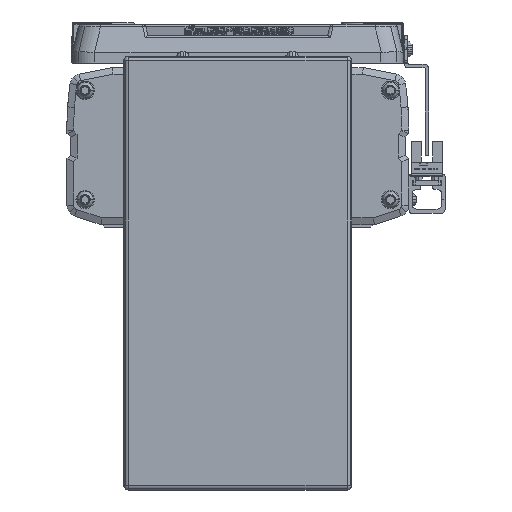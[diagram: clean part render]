
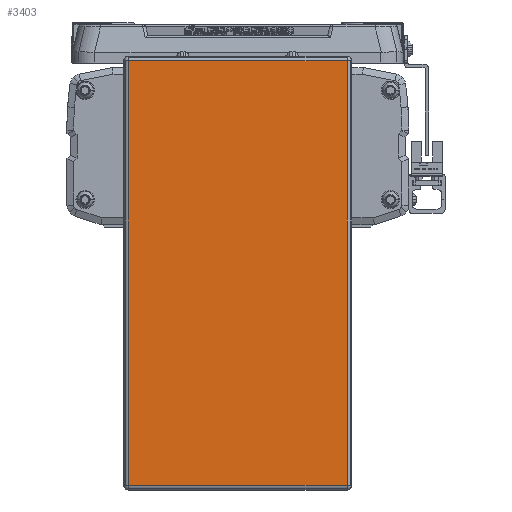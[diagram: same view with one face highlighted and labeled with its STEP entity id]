
A CAD part, left-side view. The second image highlights one B-rep face of the part: STEP entity #3403.
In plain terms, the highlighted planar face has unit normal (-1, 0, 0).
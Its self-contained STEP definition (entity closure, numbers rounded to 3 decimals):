
#3403=ADVANCED_FACE('',(#9202),#9203,.T.);
#9202=FACE_OUTER_BOUND('',#18162,.T.);
#9203=PLANE('',#18163);
#18162=EDGE_LOOP('',(#28358,#28359,#28360,#28361));
#18163=AXIS2_PLACEMENT_3D('',#28362,#28363,#28364);
#28358=ORIENTED_EDGE('',*,*,#52970,.F.);
#28359=ORIENTED_EDGE('',*,*,#52971,.F.);
#28360=ORIENTED_EDGE('',*,*,#52972,.F.);
#28361=ORIENTED_EDGE('',*,*,#52973,.F.);
#28362=CARTESIAN_POINT('',(-45.,0.,-64.2));
#28363=DIRECTION('',(-1.0,0.,0.));
#28364=DIRECTION('',(0.,1.0,0.));
#52970=EDGE_CURVE('',#62862,#62863,#62864,.T.);
#52971=EDGE_CURVE('',#62865,#62862,#62866,.T.);
#52972=EDGE_CURVE('',#62867,#62865,#62868,.T.);
#52973=EDGE_CURVE('',#62863,#62867,#62869,.T.);
#62862=VERTEX_POINT('',#77246);
#62863=VERTEX_POINT('',#77247);
#62864=LINE('',#77248,#77249);
#62865=VERTEX_POINT('',#77250);
#62866=LINE('',#77251,#77252);
#62867=VERTEX_POINT('',#77253);
#62868=LINE('',#77254,#77255);
#62869=LINE('',#77256,#77257);
#77246=CARTESIAN_POINT('',(-45.,48.,29.));
#77247=CARTESIAN_POINT('',(-45.,-48.,29.));
#77248=CARTESIAN_POINT('',(-45.,0.,29.));
#77249=VECTOR('',#97354,10.0);
#77250=CARTESIAN_POINT('',(-45.,48.,-157.4));
#77251=CARTESIAN_POINT('',(-45.,48.,-64.2));
#77252=VECTOR('',#97355,10.0);
#77253=CARTESIAN_POINT('',(-45.,-48.,-157.4));
#77254=CARTESIAN_POINT('',(-45.,0.,-157.4));
#77255=VECTOR('',#97356,10.0);
#77256=CARTESIAN_POINT('',(-45.,-48.,-64.2));
#77257=VECTOR('',#97357,10.0);
#97354=DIRECTION('',(0.0,-1.0,0.));
#97355=DIRECTION('',(0.,0.,1.0));
#97356=DIRECTION('',(0.0,1.0,0.));
#97357=DIRECTION('',(0.,0.,-1.0));
